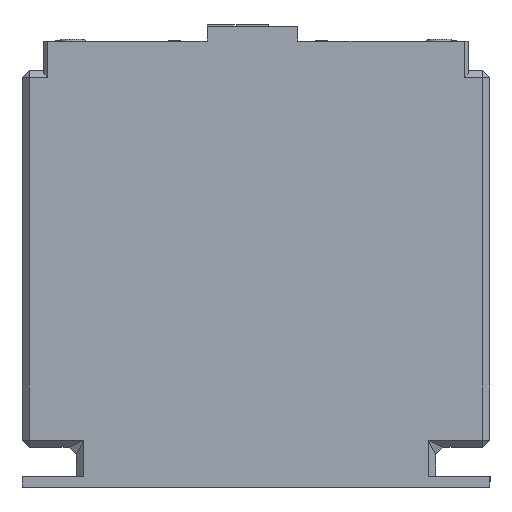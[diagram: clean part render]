
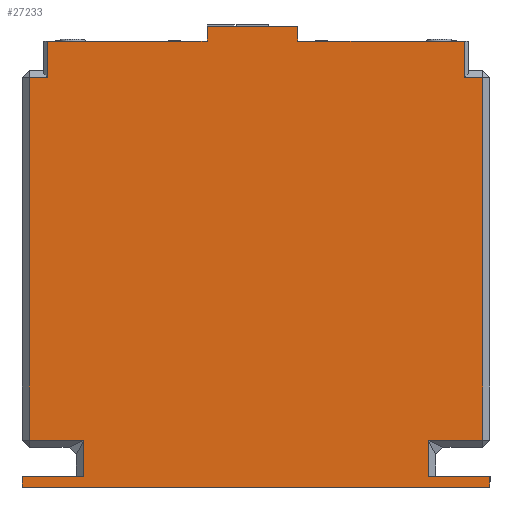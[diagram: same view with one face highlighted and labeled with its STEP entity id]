
A CAD part, left-side view. The second image highlights one B-rep face of the part: STEP entity #27233.
In plain terms, the highlighted planar face has unit normal (-1, 0, 0).
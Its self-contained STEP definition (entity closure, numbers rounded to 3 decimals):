
#668=LINE('',#35069,#3403);
#843=LINE('',#35941,#3578);
#2656=LINE('',#46783,#5391);
#2668=LINE('',#46807,#5403);
#2669=LINE('',#46810,#5404);
#2670=LINE('',#46812,#5405);
#2671=LINE('',#46813,#5406);
#2672=LINE('',#46815,#5407);
#2673=LINE('',#46817,#5408);
#2674=LINE('',#46819,#5409);
#2675=LINE('',#46821,#5410);
#2676=LINE('',#46823,#5411);
#2677=LINE('',#46825,#5412);
#2678=LINE('',#46827,#5413);
#2679=LINE('',#46829,#5414);
#2680=LINE('',#46831,#5415);
#2681=LINE('',#46833,#5416);
#2682=LINE('',#46835,#5417);
#2683=LINE('',#46837,#5418);
#2684=LINE('',#46838,#5419);
#3403=VECTOR('',#29337,10.);
#3578=VECTOR('',#29588,10.);
#5391=VECTOR('',#32669,10.);
#5403=VECTOR('',#32689,10.);
#5404=VECTOR('',#32692,10.);
#5405=VECTOR('',#32693,10.);
#5406=VECTOR('',#32694,10.);
#5407=VECTOR('',#32695,10.);
#5408=VECTOR('',#32696,10.);
#5409=VECTOR('',#32697,10.);
#5410=VECTOR('',#32698,10.);
#5411=VECTOR('',#32699,10.);
#5412=VECTOR('',#32700,10.);
#5413=VECTOR('',#32701,10.);
#5414=VECTOR('',#32702,10.);
#5415=VECTOR('',#32703,10.);
#5416=VECTOR('',#32704,10.);
#5417=VECTOR('',#32705,10.);
#5418=VECTOR('',#32706,10.);
#5419=VECTOR('',#32707,10.);
#6719=PLANE('',#28450);
#9196=FACE_OUTER_BOUND('',#10770,.T.);
#10770=EDGE_LOOP('',(#23737,#23738,#23739,#23740,#23741,#23742,#23743,#23744,
#23745,#23746,#23747,#23748,#23749,#23750,#23751,#23752,#23753,#23754,#23755,
#23756));
#11712=VERTEX_POINT('',#35066);
#11713=VERTEX_POINT('',#35068);
#11995=VERTEX_POINT('',#35938);
#11996=VERTEX_POINT('',#35940);
#13559=VERTEX_POINT('',#46782);
#13567=VERTEX_POINT('',#46805);
#13568=VERTEX_POINT('',#46809);
#13569=VERTEX_POINT('',#46811);
#13570=VERTEX_POINT('',#46814);
#13571=VERTEX_POINT('',#46816);
#13572=VERTEX_POINT('',#46818);
#13573=VERTEX_POINT('',#46820);
#13574=VERTEX_POINT('',#46822);
#13575=VERTEX_POINT('',#46824);
#13576=VERTEX_POINT('',#46826);
#13577=VERTEX_POINT('',#46828);
#13578=VERTEX_POINT('',#46830);
#13579=VERTEX_POINT('',#46832);
#13580=VERTEX_POINT('',#46834);
#13581=VERTEX_POINT('',#46836);
#14369=EDGE_CURVE('',#11713,#11712,#668,.T.);
#14666=EDGE_CURVE('',#11996,#11995,#843,.T.);
#17147=EDGE_CURVE('',#11713,#13559,#2656,.T.);
#17159=EDGE_CURVE('',#13567,#11995,#2668,.T.);
#17160=EDGE_CURVE('',#13568,#11712,#2669,.T.);
#17161=EDGE_CURVE('',#13569,#13568,#2670,.T.);
#17162=EDGE_CURVE('',#13569,#11996,#2671,.T.);
#17163=EDGE_CURVE('',#13570,#13567,#2672,.T.);
#17164=EDGE_CURVE('',#13571,#13570,#2673,.T.);
#17165=EDGE_CURVE('',#13572,#13571,#2674,.T.);
#17166=EDGE_CURVE('',#13573,#13572,#2675,.T.);
#17167=EDGE_CURVE('',#13573,#13574,#2676,.T.);
#17168=EDGE_CURVE('',#13575,#13574,#2677,.T.);
#17169=EDGE_CURVE('',#13575,#13576,#2678,.T.);
#17170=EDGE_CURVE('',#13576,#13577,#2679,.T.);
#17171=EDGE_CURVE('',#13577,#13578,#2680,.T.);
#17172=EDGE_CURVE('',#13579,#13578,#2681,.T.);
#17173=EDGE_CURVE('',#13580,#13579,#2682,.T.);
#17174=EDGE_CURVE('',#13581,#13580,#2683,.T.);
#17175=EDGE_CURVE('',#13559,#13581,#2684,.T.);
#23737=ORIENTED_EDGE('',*,*,#17147,.F.);
#23738=ORIENTED_EDGE('',*,*,#14369,.T.);
#23739=ORIENTED_EDGE('',*,*,#17160,.F.);
#23740=ORIENTED_EDGE('',*,*,#17161,.F.);
#23741=ORIENTED_EDGE('',*,*,#17162,.T.);
#23742=ORIENTED_EDGE('',*,*,#14666,.T.);
#23743=ORIENTED_EDGE('',*,*,#17159,.F.);
#23744=ORIENTED_EDGE('',*,*,#17163,.F.);
#23745=ORIENTED_EDGE('',*,*,#17164,.F.);
#23746=ORIENTED_EDGE('',*,*,#17165,.F.);
#23747=ORIENTED_EDGE('',*,*,#17166,.F.);
#23748=ORIENTED_EDGE('',*,*,#17167,.T.);
#23749=ORIENTED_EDGE('',*,*,#17168,.F.);
#23750=ORIENTED_EDGE('',*,*,#17169,.T.);
#23751=ORIENTED_EDGE('',*,*,#17170,.T.);
#23752=ORIENTED_EDGE('',*,*,#17171,.T.);
#23753=ORIENTED_EDGE('',*,*,#17172,.F.);
#23754=ORIENTED_EDGE('',*,*,#17173,.F.);
#23755=ORIENTED_EDGE('',*,*,#17174,.F.);
#23756=ORIENTED_EDGE('',*,*,#17175,.F.);
#27233=ADVANCED_FACE('',(#9196),#6719,.T.);
#28450=AXIS2_PLACEMENT_3D('',#46808,#32690,#32691);
#29337=DIRECTION('',(0.,1.,0.));
#29588=DIRECTION('',(0.,1.,0.));
#32669=DIRECTION('',(0.,0.,-1.));
#32689=DIRECTION('',(0.,0.,1.));
#32690=DIRECTION('center_axis',(-1.,0.,0.));
#32691=DIRECTION('ref_axis',(0.,-1.,0.));
#32692=DIRECTION('',(0.,0.,-1.));
#32693=DIRECTION('',(0.,-1.,0.));
#32694=DIRECTION('',(0.,0.,-1.));
#32695=DIRECTION('',(0.,-1.,0.));
#32696=DIRECTION('',(0.,0.,1.));
#32697=DIRECTION('',(0.,1.,0.));
#32698=DIRECTION('',(0.,0.,1.));
#32699=DIRECTION('',(0.,1.,0.));
#32700=DIRECTION('',(0.,0.,1.));
#32701=DIRECTION('',(0.,-1.,0.));
#32702=DIRECTION('',(0.,0.,1.));
#32703=DIRECTION('',(0.,1.,0.));
#32704=DIRECTION('',(0.,0.,-1.));
#32705=DIRECTION('',(0.,1.,0.));
#32706=DIRECTION('',(0.,0.,-1.));
#32707=DIRECTION('',(0.,-1.,0.));
#35066=CARTESIAN_POINT('',(0.,53.,123.));
#35068=CARTESIAN_POINT('',(0.,7.,123.));
#35069=CARTESIAN_POINT('',(0.,96.75,123.));
#35938=CARTESIAN_POINT('',(0.,122.,123.));
#35940=CARTESIAN_POINT('',(0.,78.,123.));
#35941=CARTESIAN_POINT('',(0.,96.75,123.));
#46782=CARTESIAN_POINT('',(0.,7.,113.));
#46783=CARTESIAN_POINT('',(0.,7.,63.5));
#46805=CARTESIAN_POINT('',(0.,122.,113.));
#46807=CARTESIAN_POINT('',(0.,122.,63.5));
#46808=CARTESIAN_POINT('Origin',(0.,129.,0.));
#46809=CARTESIAN_POINT('',(0.,53.,127.));
#46810=CARTESIAN_POINT('',(0.,53.,127.));
#46811=CARTESIAN_POINT('',(0.,78.,127.));
#46812=CARTESIAN_POINT('',(0.,78.,127.));
#46813=CARTESIAN_POINT('',(0.,78.,127.));
#46814=CARTESIAN_POINT('',(0.,127.,113.));
#46815=CARTESIAN_POINT('',(0.,127.324,113.));
#46816=CARTESIAN_POINT('',(0.,127.,13.));
#46817=CARTESIAN_POINT('',(0.,127.,0.));
#46818=CARTESIAN_POINT('',(0.,112.,13.));
#46819=CARTESIAN_POINT('',(0.,129.,13.));
#46820=CARTESIAN_POINT('',(0.,112.,3.));
#46821=CARTESIAN_POINT('',(0.,112.,3.5));
#46822=CARTESIAN_POINT('',(0.,129.,3.));
#46823=CARTESIAN_POINT('',(0.,129.,3.));
#46824=CARTESIAN_POINT('',(0.,129.,0.));
#46825=CARTESIAN_POINT('',(0.,129.,0.));
#46826=CARTESIAN_POINT('',(0.,0.,0.));
#46827=CARTESIAN_POINT('',(0.,129.,0.));
#46828=CARTESIAN_POINT('',(0.,0.,3.));
#46829=CARTESIAN_POINT('',(0.,0.,0.));
#46830=CARTESIAN_POINT('',(0.,17.,3.));
#46831=CARTESIAN_POINT('',(0.,64.5,3.));
#46832=CARTESIAN_POINT('',(0.,17.,13.));
#46833=CARTESIAN_POINT('',(0.,17.,3.5));
#46834=CARTESIAN_POINT('',(0.,2.,13.));
#46835=CARTESIAN_POINT('',(0.,64.5,13.));
#46836=CARTESIAN_POINT('',(0.,2.,113.));
#46837=CARTESIAN_POINT('',(0.,2.,0.));
#46838=CARTESIAN_POINT('',(0.,66.176,113.));
